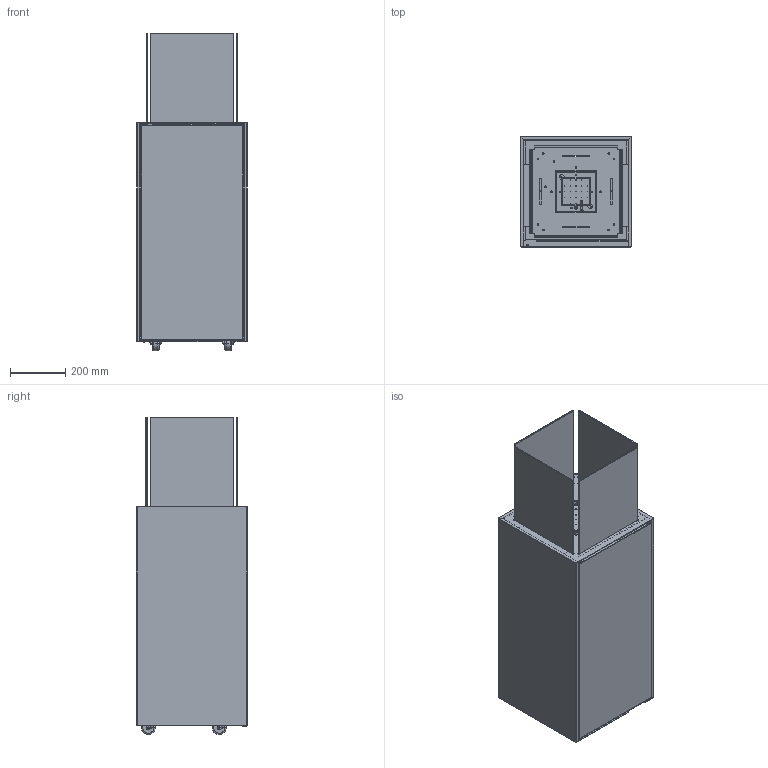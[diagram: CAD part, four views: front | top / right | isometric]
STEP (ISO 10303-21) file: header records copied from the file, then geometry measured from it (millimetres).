
FILE_DESCRIPTION (( 'STEP AP214' ), '1' );
FILE_NAME ('3d_Porto_Daze.STEP', '2022-10-18T08:33:50', ( '' ), ( '' ), 'SwSTEP 2.0', 'SolidWorks 2019', '' );
FILE_SCHEMA (( 'AUTOMOTIVE_DESIGN' ));
Length unit declared in the file: millimetre
Products named in the file (35): D6799_D4_SW_VZ^000112448; 000111973; welded_stud_ISO-13918-PT - M4 x 10 (A2); NEOCUBEO_TRANSPORTROLLE^000112448; 000111971; 000111545; 000111870; PZ-FLA3XT-0003; 000111523; 000111972; 000112391; 000111693; 000112015; 000112448; 000112019; 000112017; 000112815; 000112392; 000112018; 000111974; 000112811; 000111526; 000111543; 3d_Porto_Daze; 000112012; 000112723; 9089629; 000111872; 000112724; 000111584; 000111699; 000111522; 000112016; 000111875
Assembly tree (54 placements, depth 5):
  3d_Porto_Daze
    000112448
      000111699
      D6799_D4_SW_VZ^000112448
      NEOCUBEO_TRANSPORTROLLE^000112448  x4
      000111870
      000111973
        000111971
        000111972
        000111972
      000112019
        000111974
        000112017
          000111875
          000112012
        000112018
          000111872
          000112015
          000112016
      000112391
    000112392
      000112723
        000112724
        welded_stud_ISO-13918-PT - M4 x 10 (A2)  x13
      000111523
        000111522
        000111526  x2
        000111545  x2
      PZ-FLA3XT-0003
      000111543
      000111584
    000111693  x4
    000112811
    000112815
    9089629
Bounding box: 400 x 401 x 1146 mm (x, y, z)
Volume: 18525650.4 mm3; surface area: 4812818.7 mm2
Topology: 55 solids, 55 shells, 1819 faces, 4583 edges, 2894 vertices
Faces by surface type: plane 906, cylinder 755, cone 62, bspline 56, torus 40
Entity records: 49039 total; most frequent: CARTESIAN_POINT 11158, DIRECTION 7626, ORIENTED_EDGE 7420, EDGE_CURVE 3710, AXIS2_PLACEMENT_3D 2630, VECTOR 2366, LINE 2366, VERTEX_POINT 2334
